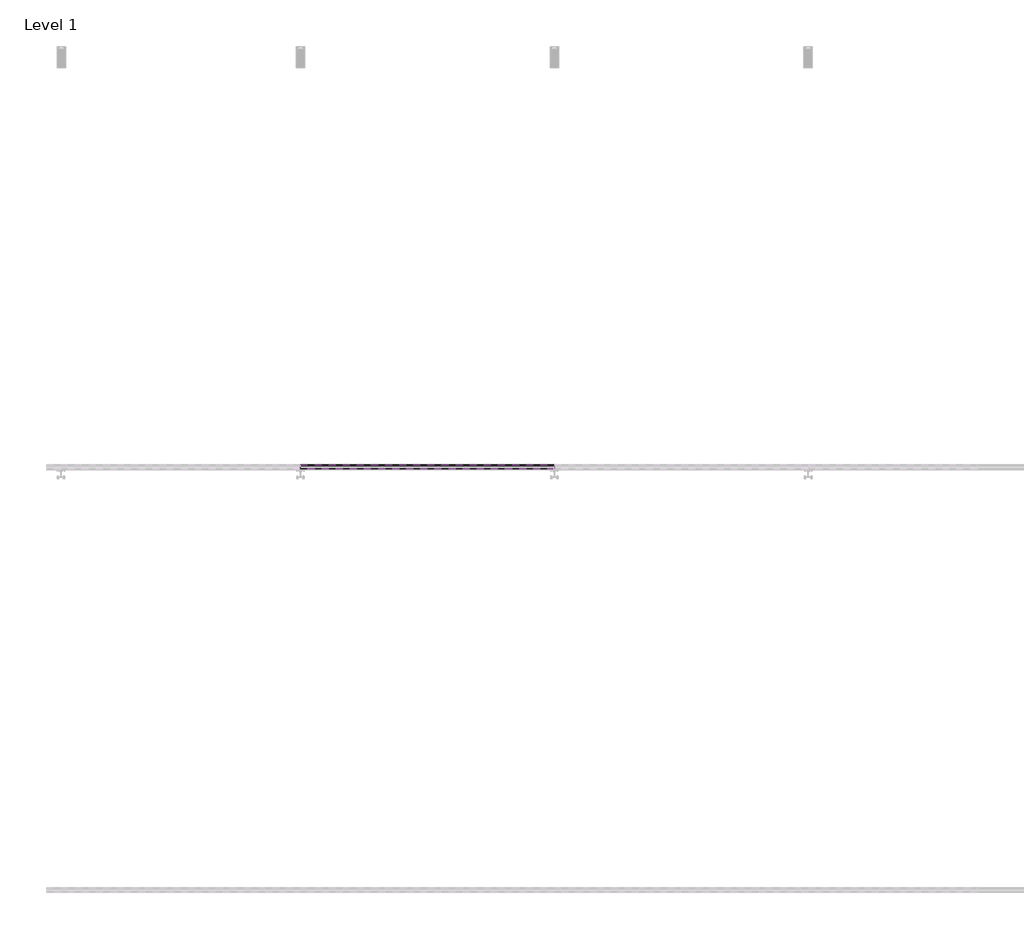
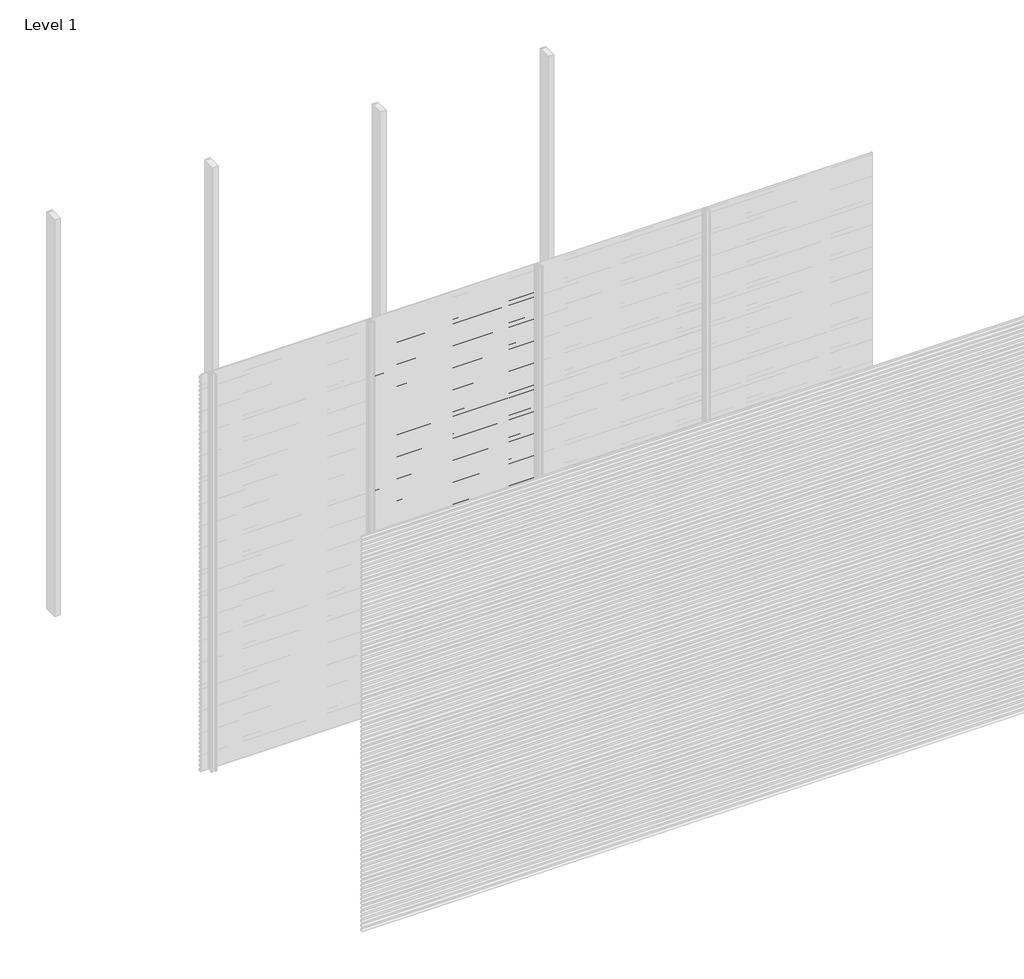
# One storey, part 21 of 77: 72 proxies.
"""IFC4 building model written with IfcOpenShell, lengths in millimetres."""

from ifc_helpers import new_model, si_unit, frame, origin, place, context, project, spatial, polyline, outline, extrude, element, save

model = new_model("IFC4")

# Units and contexts
model_context = context("Model", 3, world=origin())
ifc_project = project(units=[si_unit("LENGTHUNIT", "METRE", prefix="MILLI")], contexts=[model_context])

# Site, building, storey
site = spatial("IfcSite", under=ifc_project)
building = spatial("IfcBuilding", under=site)
storey = spatial("IfcBuildingStorey", under=building, Name="Level 1", Elevation=0.0)

# Proxies
placement = place(None, origin())
element("IfcBuildingElementProxy", 1, Name="Wall Sweeps", at=placement, inside=storey, context=model_context, shape_type="SweptSolid", body=[
    extrude(outline(polyline([(-41978.6, 2806.0359887), (-41998.0, 2817.2366691), (-41998.0, 2830.5), (-41997.0, 2830.5), (-41997.0, 2817.8191057), (-41977.6, 2806.6185105), (-41977.6, 2793.0185105), (-41978.6, 2794.5953129), (-41978.6, 2800.4032062), (-41995.9773817, 2792.3), (-41996.4, 2793.2063078), (-41978.6, 2801.5065841), (-41978.6, 2806.0359887)])), frame((1200.0, 0.0, 0.0), z_axis=(1.0, 0.0, 0.0), x_axis=(0.0, 1.0, 0.0)), (0.0, 0.0, 1.0), 1200.0),
])
element("IfcBuildingElementProxy", 2, Name="Wall Sweeps", at=placement, inside=storey, context=model_context, shape_type="SweptSolid", body=[
    extrude(outline(polyline([(-41978.6, 2772.7359887), (-41998.0, 2783.9366691), (-41998.0, 2797.2), (-41997.0, 2797.2), (-41997.0, 2784.5191057), (-41977.6, 2773.3185105), (-41977.6, 2759.7185105), (-41978.6, 2761.2953129), (-41978.6, 2767.1032062), (-41995.9773817, 2759.0), (-41996.4, 2759.9063078), (-41978.6, 2768.2065841), (-41978.6, 2772.7359887)])), frame((1200.0, 0.0, 0.0), z_axis=(1.0, 0.0, 0.0), x_axis=(0.0, 1.0, 0.0)), (0.0, 0.0, 1.0), 1200.0),
])
element("IfcBuildingElementProxy", 3, Name="Wall Sweeps", at=placement, inside=storey, context=model_context, shape_type="SweptSolid", body=[
    extrude(outline(polyline([(-41978.6, 2739.4359887), (-41998.0, 2750.6366691), (-41998.0, 2763.9), (-41997.0, 2763.9), (-41997.0, 2751.2191057), (-41977.6, 2740.0185105), (-41977.6, 2726.4185105), (-41978.6, 2727.9953129), (-41978.6, 2733.8032062), (-41995.9773817, 2725.7), (-41996.4, 2726.6063078), (-41978.6, 2734.9065841), (-41978.6, 2739.4359887)])), frame((1200.0, 0.0, 0.0), z_axis=(1.0, 0.0, 0.0), x_axis=(0.0, 1.0, 0.0)), (0.0, 0.0, 1.0), 1200.0),
])
element("IfcBuildingElementProxy", 4, Name="Wall Sweeps", at=placement, inside=storey, context=model_context, shape_type="SweptSolid", body=[
    extrude(outline(polyline([(-41978.6, 2706.1359887), (-41998.0, 2717.3366691), (-41998.0, 2730.6), (-41997.0, 2730.6), (-41997.0, 2717.9191057), (-41977.6, 2706.7185105), (-41977.6, 2693.1185105), (-41978.6, 2694.6953129), (-41978.6, 2700.5032062), (-41995.9773817, 2692.4), (-41996.4, 2693.3063078), (-41978.6, 2701.6065841), (-41978.6, 2706.1359887)])), frame((1200.0, 0.0, 0.0), z_axis=(1.0, 0.0, 0.0), x_axis=(0.0, 1.0, 0.0)), (0.0, 0.0, 1.0), 1200.0),
])
element("IfcBuildingElementProxy", 5, Name="Wall Sweeps", at=placement, inside=storey, context=model_context, shape_type="SweptSolid", body=[
    extrude(outline(polyline([(-41978.6, 2672.8359887), (-41998.0, 2684.0366691), (-41998.0, 2697.3), (-41997.0, 2697.3), (-41997.0, 2684.6191057), (-41977.6, 2673.4185105), (-41977.6, 2659.8185105), (-41978.6, 2661.3953129), (-41978.6, 2667.2032062), (-41995.9773817, 2659.1), (-41996.4, 2660.0063078), (-41978.6, 2668.3065841), (-41978.6, 2672.8359887)])), frame((1200.0, 0.0, 0.0), z_axis=(1.0, 0.0, 0.0), x_axis=(0.0, 1.0, 0.0)), (0.0, 0.0, 1.0), 1200.0),
])
element("IfcBuildingElementProxy", 6, Name="Wall Sweeps", at=placement, inside=storey, context=model_context, shape_type="SweptSolid", body=[
    extrude(outline(polyline([(-41978.6, 2639.5359887), (-41998.0, 2650.7366691), (-41998.0, 2664.0), (-41997.0, 2664.0), (-41997.0, 2651.3191057), (-41977.6, 2640.1185105), (-41977.6, 2626.5185105), (-41978.6, 2628.0953129), (-41978.6, 2633.9032062), (-41995.9773817, 2625.8), (-41996.4, 2626.7063078), (-41978.6, 2635.0065841), (-41978.6, 2639.5359887)])), frame((1200.0, 0.0, 0.0), z_axis=(1.0, 0.0, 0.0), x_axis=(0.0, 1.0, 0.0)), (0.0, 0.0, 1.0), 1200.0),
])
element("IfcBuildingElementProxy", 7, Name="Wall Sweeps", at=placement, inside=storey, context=model_context, shape_type="SweptSolid", body=[
    extrude(outline(polyline([(-41978.6, 2606.2359887), (-41998.0, 2617.4366691), (-41998.0, 2630.7), (-41997.0, 2630.7), (-41997.0, 2618.0191057), (-41977.6, 2606.8185105), (-41977.6, 2593.2185105), (-41978.6, 2594.7953129), (-41978.6, 2600.6032062), (-41995.9773817, 2592.5), (-41996.4, 2593.4063078), (-41978.6, 2601.7065841), (-41978.6, 2606.2359887)])), frame((1200.0, 0.0, 0.0), z_axis=(1.0, 0.0, 0.0), x_axis=(0.0, 1.0, 0.0)), (0.0, 0.0, 1.0), 1200.0),
])
element("IfcBuildingElementProxy", 8, Name="Wall Sweeps", at=placement, inside=storey, context=model_context, shape_type="SweptSolid", body=[
    extrude(outline(polyline([(-41978.6, 2572.9359887), (-41998.0, 2584.1366691), (-41998.0, 2597.4), (-41997.0, 2597.4), (-41997.0, 2584.7191057), (-41977.6, 2573.5185105), (-41977.6, 2559.9185105), (-41978.6, 2561.4953129), (-41978.6, 2567.3032062), (-41995.9773817, 2559.2), (-41996.4, 2560.1063078), (-41978.6, 2568.4065841), (-41978.6, 2572.9359887)])), frame((1200.0, 0.0, 0.0), z_axis=(1.0, 0.0, 0.0), x_axis=(0.0, 1.0, 0.0)), (0.0, 0.0, 1.0), 1200.0),
])
element("IfcBuildingElementProxy", 9, Name="Wall Sweeps", at=placement, inside=storey, context=model_context, shape_type="SweptSolid", body=[
    extrude(outline(polyline([(-41978.6, 2539.6359887), (-41998.0, 2550.8366691), (-41998.0, 2564.1), (-41997.0, 2564.1), (-41997.0, 2551.4191057), (-41977.6, 2540.2185105), (-41977.6, 2526.6185105), (-41978.6, 2528.1953129), (-41978.6, 2534.0032062), (-41995.9773817, 2525.9), (-41996.4, 2526.8063078), (-41978.6, 2535.1065841), (-41978.6, 2539.6359887)])), frame((1200.0, 0.0, 0.0), z_axis=(1.0, 0.0, 0.0), x_axis=(0.0, 1.0, 0.0)), (0.0, 0.0, 1.0), 1200.0),
])
element("IfcBuildingElementProxy", 10, Name="Wall Sweeps", at=placement, inside=storey, context=model_context, shape_type="SweptSolid", body=[
    extrude(outline(polyline([(-41978.6, 2506.3359887), (-41998.0, 2517.5366691), (-41998.0, 2530.8), (-41997.0, 2530.8), (-41997.0, 2518.1191057), (-41977.6, 2506.9185105), (-41977.6, 2493.3185105), (-41978.6, 2494.8953129), (-41978.6, 2500.7032062), (-41995.9773817, 2492.6), (-41996.4, 2493.5063078), (-41978.6, 2501.8065841), (-41978.6, 2506.3359887)])), frame((1200.0, 0.0, 0.0), z_axis=(1.0, 0.0, 0.0), x_axis=(0.0, 1.0, 0.0)), (0.0, 0.0, 1.0), 1200.0),
])
element("IfcBuildingElementProxy", 11, Name="Wall Sweeps", at=placement, inside=storey, context=model_context, shape_type="SweptSolid", body=[
    extrude(outline(polyline([(-41978.6, 2473.0359887), (-41998.0, 2484.2366691), (-41998.0, 2497.5), (-41997.0, 2497.5), (-41997.0, 2484.8191057), (-41977.6, 2473.6185105), (-41977.6, 2460.0185105), (-41978.6, 2461.5953129), (-41978.6, 2467.4032062), (-41995.9773817, 2459.3), (-41996.4, 2460.2063078), (-41978.6, 2468.5065841), (-41978.6, 2473.0359887)])), frame((1200.0, 0.0, 0.0), z_axis=(1.0, 0.0, 0.0), x_axis=(0.0, 1.0, 0.0)), (0.0, 0.0, 1.0), 1200.0),
])
element("IfcBuildingElementProxy", 12, Name="Wall Sweeps", at=placement, inside=storey, context=model_context, shape_type="SweptSolid", body=[
    extrude(outline(polyline([(-41978.6, 2439.7359887), (-41998.0, 2450.9366691), (-41998.0, 2464.2), (-41997.0, 2464.2), (-41997.0, 2451.5191057), (-41977.6, 2440.3185105), (-41977.6, 2426.7185105), (-41978.6, 2428.2953129), (-41978.6, 2434.1032062), (-41995.9773817, 2426.0), (-41996.4, 2426.9063078), (-41978.6, 2435.2065841), (-41978.6, 2439.7359887)])), frame((1200.0, 0.0, 0.0), z_axis=(1.0, 0.0, 0.0), x_axis=(0.0, 1.0, 0.0)), (0.0, 0.0, 1.0), 1200.0),
])
element("IfcBuildingElementProxy", 13, Name="Wall Sweeps", at=placement, inside=storey, context=model_context, shape_type="SweptSolid", body=[
    extrude(outline(polyline([(-41978.6, 2406.4359887), (-41998.0, 2417.6366691), (-41998.0, 2430.9), (-41997.0, 2430.9), (-41997.0, 2418.2191057), (-41977.6, 2407.0185105), (-41977.6, 2393.4185105), (-41978.6, 2394.9953129), (-41978.6, 2400.8032062), (-41995.9773817, 2392.7), (-41996.4, 2393.6063078), (-41978.6, 2401.9065841), (-41978.6, 2406.4359887)])), frame((1200.0, 0.0, 0.0), z_axis=(1.0, 0.0, 0.0), x_axis=(0.0, 1.0, 0.0)), (0.0, 0.0, 1.0), 1200.0),
])
element("IfcBuildingElementProxy", 14, Name="Wall Sweeps", at=placement, inside=storey, context=model_context, shape_type="SweptSolid", body=[
    extrude(outline(polyline([(-41978.6, 2373.1359887), (-41998.0, 2384.3366691), (-41998.0, 2397.6), (-41997.0, 2397.6), (-41997.0, 2384.9191057), (-41977.6, 2373.7185105), (-41977.6, 2360.1185105), (-41978.6, 2361.6953129), (-41978.6, 2367.5032062), (-41995.9773817, 2359.4), (-41996.4, 2360.3063078), (-41978.6, 2368.6065841), (-41978.6, 2373.1359887)])), frame((1200.0, 0.0, 0.0), z_axis=(1.0, 0.0, 0.0), x_axis=(0.0, 1.0, 0.0)), (0.0, 0.0, 1.0), 1200.0),
])
element("IfcBuildingElementProxy", 15, Name="Wall Sweeps", at=placement, inside=storey, context=model_context, shape_type="SweptSolid", body=[
    extrude(outline(polyline([(-41978.6, 2339.8359887), (-41998.0, 2351.0366691), (-41998.0, 2364.3), (-41997.0, 2364.3), (-41997.0, 2351.6191057), (-41977.6, 2340.4185105), (-41977.6, 2326.8185105), (-41978.6, 2328.3953129), (-41978.6, 2334.2032062), (-41995.9773817, 2326.1), (-41996.4, 2327.0063078), (-41978.6, 2335.3065841), (-41978.6, 2339.8359887)])), frame((1200.0, 0.0, 0.0), z_axis=(1.0, 0.0, 0.0), x_axis=(0.0, 1.0, 0.0)), (0.0, 0.0, 1.0), 1200.0),
])
element("IfcBuildingElementProxy", 16, Name="Wall Sweeps", at=placement, inside=storey, context=model_context, shape_type="SweptSolid", body=[
    extrude(outline(polyline([(-41978.6, 2306.5359887), (-41998.0, 2317.7366691), (-41998.0, 2331.0), (-41997.0, 2331.0), (-41997.0, 2318.3191057), (-41977.6, 2307.1185105), (-41977.6, 2293.5185105), (-41978.6, 2295.0953129), (-41978.6, 2300.9032062), (-41995.9773817, 2292.8), (-41996.4, 2293.7063078), (-41978.6, 2302.0065841), (-41978.6, 2306.5359887)])), frame((1200.0, 0.0, 0.0), z_axis=(1.0, 0.0, 0.0), x_axis=(0.0, 1.0, 0.0)), (0.0, 0.0, 1.0), 1200.0),
])
element("IfcBuildingElementProxy", 17, Name="Wall Sweeps", at=placement, inside=storey, context=model_context, shape_type="SweptSolid", body=[
    extrude(outline(polyline([(-41978.6, 2273.2359887), (-41998.0, 2284.4366691), (-41998.0, 2297.7), (-41997.0, 2297.7), (-41997.0, 2285.0191057), (-41977.6, 2273.8185105), (-41977.6, 2260.2185105), (-41978.6, 2261.7953129), (-41978.6, 2267.6032062), (-41995.9773817, 2259.5), (-41996.4, 2260.4063078), (-41978.6, 2268.7065841), (-41978.6, 2273.2359887)])), frame((1200.0, 0.0, 0.0), z_axis=(1.0, 0.0, 0.0), x_axis=(0.0, 1.0, 0.0)), (0.0, 0.0, 1.0), 1200.0),
])
element("IfcBuildingElementProxy", 18, Name="Wall Sweeps", at=placement, inside=storey, context=model_context, shape_type="SweptSolid", body=[
    extrude(outline(polyline([(-41978.6, 2239.9359887), (-41998.0, 2251.1366691), (-41998.0, 2264.4), (-41997.0, 2264.4), (-41997.0, 2251.7191057), (-41977.6, 2240.5185105), (-41977.6, 2226.9185105), (-41978.6, 2228.4953129), (-41978.6, 2234.3032062), (-41995.9773817, 2226.2), (-41996.4, 2227.1063078), (-41978.6, 2235.4065841), (-41978.6, 2239.9359887)])), frame((1200.0, 0.0, 0.0), z_axis=(1.0, 0.0, 0.0), x_axis=(0.0, 1.0, 0.0)), (0.0, 0.0, 1.0), 1200.0),
])
element("IfcBuildingElementProxy", 19, Name="Wall Sweeps", at=placement, inside=storey, context=model_context, shape_type="SweptSolid", body=[
    extrude(outline(polyline([(-41978.6, 2206.6359887), (-41998.0, 2217.8366691), (-41998.0, 2231.1), (-41997.0, 2231.1), (-41997.0, 2218.4191057), (-41977.6, 2207.2185105), (-41977.6, 2193.6185105), (-41978.6, 2195.1953129), (-41978.6, 2201.0032062), (-41995.9773817, 2192.9), (-41996.4, 2193.8063078), (-41978.6, 2202.1065841), (-41978.6, 2206.6359887)])), frame((1200.0, 0.0, 0.0), z_axis=(1.0, 0.0, 0.0), x_axis=(0.0, 1.0, 0.0)), (0.0, 0.0, 1.0), 1200.0),
])
element("IfcBuildingElementProxy", 20, Name="Wall Sweeps", at=placement, inside=storey, context=model_context, shape_type="SweptSolid", body=[
    extrude(outline(polyline([(-41978.6, 2173.3359887), (-41998.0, 2184.5366691), (-41998.0, 2197.8), (-41997.0, 2197.8), (-41997.0, 2185.1191057), (-41977.6, 2173.9185105), (-41977.6, 2160.3185105), (-41978.6, 2161.8953129), (-41978.6, 2167.7032062), (-41995.9773817, 2159.6), (-41996.4, 2160.5063078), (-41978.6, 2168.8065841), (-41978.6, 2173.3359887)])), frame((1200.0, 0.0, 0.0), z_axis=(1.0, 0.0, 0.0), x_axis=(0.0, 1.0, 0.0)), (0.0, 0.0, 1.0), 1200.0),
])
element("IfcBuildingElementProxy", 21, Name="Wall Sweeps", at=placement, inside=storey, context=model_context, shape_type="SweptSolid", body=[
    extrude(outline(polyline([(-41978.6, 2140.0359887), (-41998.0, 2151.2366691), (-41998.0, 2164.5), (-41997.0, 2164.5), (-41997.0, 2151.8191057), (-41977.6, 2140.6185105), (-41977.6, 2127.0185105), (-41978.6, 2128.5953129), (-41978.6, 2134.4032062), (-41995.9773817, 2126.3), (-41996.4, 2127.2063078), (-41978.6, 2135.5065841), (-41978.6, 2140.0359887)])), frame((1200.0, 0.0, 0.0), z_axis=(1.0, 0.0, 0.0), x_axis=(0.0, 1.0, 0.0)), (0.0, 0.0, 1.0), 1200.0),
])
element("IfcBuildingElementProxy", 22, Name="Wall Sweeps", at=placement, inside=storey, context=model_context, shape_type="SweptSolid", body=[
    extrude(outline(polyline([(-41978.6, 2106.7359887), (-41998.0, 2117.9366691), (-41998.0, 2131.2), (-41997.0, 2131.2), (-41997.0, 2118.5191057), (-41977.6, 2107.3185105), (-41977.6, 2093.7185105), (-41978.6, 2095.2953129), (-41978.6, 2101.1032062), (-41995.9773817, 2093.0), (-41996.4, 2093.9063078), (-41978.6, 2102.2065841), (-41978.6, 2106.7359887)])), frame((1200.0, 0.0, 0.0), z_axis=(1.0, 0.0, 0.0), x_axis=(0.0, 1.0, 0.0)), (0.0, 0.0, 1.0), 1200.0),
])
element("IfcBuildingElementProxy", 23, Name="Wall Sweeps", at=placement, inside=storey, context=model_context, shape_type="SweptSolid", body=[
    extrude(outline(polyline([(-41978.6, 2073.4359887), (-41998.0, 2084.6366691), (-41998.0, 2097.9), (-41997.0, 2097.9), (-41997.0, 2085.2191057), (-41977.6, 2074.0185105), (-41977.6, 2060.4185105), (-41978.6, 2061.9953129), (-41978.6, 2067.8032062), (-41995.9773817, 2059.7), (-41996.4, 2060.6063078), (-41978.6, 2068.9065841), (-41978.6, 2073.4359887)])), frame((1200.0, 0.0, 0.0), z_axis=(1.0, 0.0, 0.0), x_axis=(0.0, 1.0, 0.0)), (0.0, 0.0, 1.0), 1200.0),
])
element("IfcBuildingElementProxy", 24, Name="Wall Sweeps", at=placement, inside=storey, context=model_context, shape_type="SweptSolid", body=[
    extrude(outline(polyline([(-41978.6, 2040.1359887), (-41998.0, 2051.3366691), (-41998.0, 2064.6), (-41997.0, 2064.6), (-41997.0, 2051.9191057), (-41977.6, 2040.7185105), (-41977.6, 2027.1185105), (-41978.6, 2028.6953129), (-41978.6, 2034.5032062), (-41995.9773817, 2026.4), (-41996.4, 2027.3063078), (-41978.6, 2035.6065841), (-41978.6, 2040.1359887)])), frame((1200.0, 0.0, 0.0), z_axis=(1.0, 0.0, 0.0), x_axis=(0.0, 1.0, 0.0)), (0.0, 0.0, 1.0), 1200.0),
])
element("IfcBuildingElementProxy", 25, Name="Wall Sweeps", at=placement, inside=storey, context=model_context, shape_type="SweptSolid", body=[
    extrude(outline(polyline([(-41978.6, 2006.8359887), (-41998.0, 2018.0366691), (-41998.0, 2031.3), (-41997.0, 2031.3), (-41997.0, 2018.6191057), (-41977.6, 2007.4185105), (-41977.6, 1993.8185105), (-41978.6, 1995.3953129), (-41978.6, 2001.2032062), (-41995.9773817, 1993.1), (-41996.4, 1994.0063078), (-41978.6, 2002.3065841), (-41978.6, 2006.8359887)])), frame((1200.0, 0.0, 0.0), z_axis=(1.0, 0.0, 0.0), x_axis=(0.0, 1.0, 0.0)), (0.0, 0.0, 1.0), 1200.0),
])
element("IfcBuildingElementProxy", 26, Name="Wall Sweeps", at=placement, inside=storey, context=model_context, shape_type="SweptSolid", body=[
    extrude(outline(polyline([(-41978.6, 1973.5359887), (-41998.0, 1984.7366691), (-41998.0, 1998.0), (-41997.0, 1998.0), (-41997.0, 1985.3191057), (-41977.6, 1974.1185105), (-41977.6, 1960.5185105), (-41978.6, 1962.0953129), (-41978.6, 1967.9032062), (-41995.9773817, 1959.8), (-41996.4, 1960.7063078), (-41978.6, 1969.0065841), (-41978.6, 1973.5359887)])), frame((1200.0, 0.0, 0.0), z_axis=(1.0, 0.0, 0.0), x_axis=(0.0, 1.0, 0.0)), (0.0, 0.0, 1.0), 1200.0),
])
element("IfcBuildingElementProxy", 27, Name="Wall Sweeps", at=placement, inside=storey, context=model_context, shape_type="SweptSolid", body=[
    extrude(outline(polyline([(-41978.6, 1940.2359887), (-41998.0, 1951.4366691), (-41998.0, 1964.7), (-41997.0, 1964.7), (-41997.0, 1952.0191057), (-41977.6, 1940.8185105), (-41977.6, 1927.2185105), (-41978.6, 1928.7953129), (-41978.6, 1934.6032062), (-41995.9773817, 1926.5), (-41996.4, 1927.4063078), (-41978.6, 1935.7065841), (-41978.6, 1940.2359887)])), frame((1200.0, 0.0, 0.0), z_axis=(1.0, 0.0, 0.0), x_axis=(0.0, 1.0, 0.0)), (0.0, 0.0, 1.0), 1200.0),
])
element("IfcBuildingElementProxy", 28, Name="Wall Sweeps", at=placement, inside=storey, context=model_context, shape_type="SweptSolid", body=[
    extrude(outline(polyline([(-41978.6, 1906.9359887), (-41998.0, 1918.1366691), (-41998.0, 1931.4), (-41997.0, 1931.4), (-41997.0, 1918.7191057), (-41977.6, 1907.5185105), (-41977.6, 1893.9185105), (-41978.6, 1895.4953129), (-41978.6, 1901.3032062), (-41995.9773817, 1893.2), (-41996.4, 1894.1063078), (-41978.6, 1902.4065841), (-41978.6, 1906.9359887)])), frame((1200.0, 0.0, 0.0), z_axis=(1.0, 0.0, 0.0), x_axis=(0.0, 1.0, 0.0)), (0.0, 0.0, 1.0), 1200.0),
])
element("IfcBuildingElementProxy", 29, Name="Wall Sweeps", at=placement, inside=storey, context=model_context, shape_type="SweptSolid", body=[
    extrude(outline(polyline([(-41978.6, 1873.6359887), (-41998.0, 1884.8366691), (-41998.0, 1898.1), (-41997.0, 1898.1), (-41997.0, 1885.4191057), (-41977.6, 1874.2185105), (-41977.6, 1860.6185105), (-41978.6, 1862.1953129), (-41978.6, 1868.0032062), (-41995.9773817, 1859.9), (-41996.4, 1860.8063078), (-41978.6, 1869.1065841), (-41978.6, 1873.6359887)])), frame((1200.0, 0.0, 0.0), z_axis=(1.0, 0.0, 0.0), x_axis=(0.0, 1.0, 0.0)), (0.0, 0.0, 1.0), 1200.0),
])
element("IfcBuildingElementProxy", 30, Name="Wall Sweeps", at=placement, inside=storey, context=model_context, shape_type="SweptSolid", body=[
    extrude(outline(polyline([(-41978.6, 1840.3359887), (-41998.0, 1851.5366691), (-41998.0, 1864.8), (-41997.0, 1864.8), (-41997.0, 1852.1191057), (-41977.6, 1840.9185105), (-41977.6, 1827.3185105), (-41978.6, 1828.8953129), (-41978.6, 1834.7032062), (-41995.9773817, 1826.6), (-41996.4, 1827.5063078), (-41978.6, 1835.8065841), (-41978.6, 1840.3359887)])), frame((1200.0, 0.0, 0.0), z_axis=(1.0, 0.0, 0.0), x_axis=(0.0, 1.0, 0.0)), (0.0, 0.0, 1.0), 1200.0),
])
element("IfcBuildingElementProxy", 31, Name="Wall Sweeps", at=placement, inside=storey, context=model_context, shape_type="SweptSolid", body=[
    extrude(outline(polyline([(-41978.6, 1807.0359887), (-41998.0, 1818.2366691), (-41998.0, 1831.5), (-41997.0, 1831.5), (-41997.0, 1818.8191057), (-41977.6, 1807.6185105), (-41977.6, 1794.0185105), (-41978.6, 1795.5953129), (-41978.6, 1801.4032062), (-41995.9773817, 1793.3), (-41996.4, 1794.2063078), (-41978.6, 1802.5065841), (-41978.6, 1807.0359887)])), frame((1200.0, 0.0, 0.0), z_axis=(1.0, 0.0, 0.0), x_axis=(0.0, 1.0, 0.0)), (0.0, 0.0, 1.0), 1200.0),
])
element("IfcBuildingElementProxy", 32, Name="Wall Sweeps", at=placement, inside=storey, context=model_context, shape_type="SweptSolid", body=[
    extrude(outline(polyline([(-41978.6, 1773.7359887), (-41998.0, 1784.9366691), (-41998.0, 1798.2), (-41997.0, 1798.2), (-41997.0, 1785.5191057), (-41977.6, 1774.3185105), (-41977.6, 1760.7185105), (-41978.6, 1762.2953129), (-41978.6, 1768.1032062), (-41995.9773817, 1760.0), (-41996.4, 1760.9063078), (-41978.6, 1769.2065841), (-41978.6, 1773.7359887)])), frame((1200.0, 0.0, 0.0), z_axis=(1.0, 0.0, 0.0), x_axis=(0.0, 1.0, 0.0)), (0.0, 0.0, 1.0), 1200.0),
])
element("IfcBuildingElementProxy", 33, Name="Wall Sweeps", at=placement, inside=storey, context=model_context, shape_type="SweptSolid", body=[
    extrude(outline(polyline([(-41978.6, 1740.4359887), (-41998.0, 1751.6366691), (-41998.0, 1764.9), (-41997.0, 1764.9), (-41997.0, 1752.2191057), (-41977.6, 1741.0185105), (-41977.6, 1727.4185105), (-41978.6, 1728.9953129), (-41978.6, 1734.8032062), (-41995.9773817, 1726.7), (-41996.4, 1727.6063078), (-41978.6, 1735.9065841), (-41978.6, 1740.4359887)])), frame((1200.0, 0.0, 0.0), z_axis=(1.0, 0.0, 0.0), x_axis=(0.0, 1.0, 0.0)), (0.0, 0.0, 1.0), 1200.0),
])
element("IfcBuildingElementProxy", 34, Name="Wall Sweeps", at=placement, inside=storey, context=model_context, shape_type="SweptSolid", body=[
    extrude(outline(polyline([(-41978.6, 1707.1359887), (-41998.0, 1718.3366691), (-41998.0, 1731.6), (-41997.0, 1731.6), (-41997.0, 1718.9191057), (-41977.6, 1707.7185105), (-41977.6, 1694.1185105), (-41978.6, 1695.6953129), (-41978.6, 1701.5032062), (-41995.9773817, 1693.4), (-41996.4, 1694.3063078), (-41978.6, 1702.6065841), (-41978.6, 1707.1359887)])), frame((1200.0, 0.0, 0.0), z_axis=(1.0, 0.0, 0.0), x_axis=(0.0, 1.0, 0.0)), (0.0, 0.0, 1.0), 1200.0),
])
element("IfcBuildingElementProxy", 35, Name="Wall Sweeps", at=placement, inside=storey, context=model_context, shape_type="SweptSolid", body=[
    extrude(outline(polyline([(-41978.6, 1673.8359887), (-41998.0, 1685.0366691), (-41998.0, 1698.3), (-41997.0, 1698.3), (-41997.0, 1685.6191057), (-41977.6, 1674.4185105), (-41977.6, 1660.8185105), (-41978.6, 1662.3953129), (-41978.6, 1668.2032062), (-41995.9773817, 1660.1), (-41996.4, 1661.0063078), (-41978.6, 1669.3065841), (-41978.6, 1673.8359887)])), frame((1200.0, 0.0, 0.0), z_axis=(1.0, 0.0, 0.0), x_axis=(0.0, 1.0, 0.0)), (0.0, 0.0, 1.0), 1200.0),
])
element("IfcBuildingElementProxy", 36, Name="Wall Sweeps", at=placement, inside=storey, context=model_context, shape_type="SweptSolid", body=[
    extrude(outline(polyline([(-41978.6, 1640.5359887), (-41998.0, 1651.7366691), (-41998.0, 1665.0), (-41997.0, 1665.0), (-41997.0, 1652.3191057), (-41977.6, 1641.1185105), (-41977.6, 1627.5185105), (-41978.6, 1629.0953129), (-41978.6, 1634.9032062), (-41995.9773817, 1626.8), (-41996.4, 1627.7063078), (-41978.6, 1636.0065841), (-41978.6, 1640.5359887)])), frame((1200.0, 0.0, 0.0), z_axis=(1.0, 0.0, 0.0), x_axis=(0.0, 1.0, 0.0)), (0.0, 0.0, 1.0), 1200.0),
])
element("IfcBuildingElementProxy", 37, Name="Wall Sweeps", at=placement, inside=storey, context=model_context, shape_type="SweptSolid", body=[
    extrude(outline(polyline([(-41978.6, 1607.2359887), (-41998.0, 1618.4366691), (-41998.0, 1631.7), (-41997.0, 1631.7), (-41997.0, 1619.0191057), (-41977.6, 1607.8185105), (-41977.6, 1594.2185105), (-41978.6, 1595.7953129), (-41978.6, 1601.6032062), (-41995.9773817, 1593.5), (-41996.4, 1594.4063078), (-41978.6, 1602.7065841), (-41978.6, 1607.2359887)])), frame((1200.0, 0.0, 0.0), z_axis=(1.0, 0.0, 0.0), x_axis=(0.0, 1.0, 0.0)), (0.0, 0.0, 1.0), 1200.0),
])
element("IfcBuildingElementProxy", 38, Name="Wall Sweeps", at=placement, inside=storey, context=model_context, shape_type="SweptSolid", body=[
    extrude(outline(polyline([(-41978.6, 1573.9359887), (-41998.0, 1585.1366691), (-41998.0, 1598.4), (-41997.0, 1598.4), (-41997.0, 1585.7191057), (-41977.6, 1574.5185105), (-41977.6, 1560.9185105), (-41978.6, 1562.4953129), (-41978.6, 1568.3032062), (-41995.9773817, 1560.2), (-41996.4, 1561.1063078), (-41978.6, 1569.4065841), (-41978.6, 1573.9359887)])), frame((1200.0, 0.0, 0.0), z_axis=(1.0, 0.0, 0.0), x_axis=(0.0, 1.0, 0.0)), (0.0, 0.0, 1.0), 1200.0),
])
element("IfcBuildingElementProxy", 39, Name="Wall Sweeps", at=placement, inside=storey, context=model_context, shape_type="SweptSolid", body=[
    extrude(outline(polyline([(-41978.6, 1540.6359887), (-41998.0, 1551.8366691), (-41998.0, 1565.1), (-41997.0, 1565.1), (-41997.0, 1552.4191057), (-41977.6, 1541.2185105), (-41977.6, 1527.6185105), (-41978.6, 1529.1953129), (-41978.6, 1535.0032062), (-41995.9773817, 1526.9), (-41996.4, 1527.8063078), (-41978.6, 1536.1065841), (-41978.6, 1540.6359887)])), frame((1200.0, 0.0, 0.0), z_axis=(1.0, 0.0, 0.0), x_axis=(0.0, 1.0, 0.0)), (0.0, 0.0, 1.0), 1200.0),
])
element("IfcBuildingElementProxy", 40, Name="Wall Sweeps", at=placement, inside=storey, context=model_context, shape_type="SweptSolid", body=[
    extrude(outline(polyline([(-41978.6, 1507.3359887), (-41998.0, 1518.5366691), (-41998.0, 1531.8), (-41997.0, 1531.8), (-41997.0, 1519.1191057), (-41977.6, 1507.9185105), (-41977.6, 1494.3185105), (-41978.6, 1495.8953129), (-41978.6, 1501.7032062), (-41995.9773817, 1493.6), (-41996.4, 1494.5063078), (-41978.6, 1502.8065841), (-41978.6, 1507.3359887)])), frame((1200.0, 0.0, 0.0), z_axis=(1.0, 0.0, 0.0), x_axis=(0.0, 1.0, 0.0)), (0.0, 0.0, 1.0), 1200.0),
])
element("IfcBuildingElementProxy", 41, Name="Wall Sweeps", at=placement, inside=storey, context=model_context, shape_type="SweptSolid", body=[
    extrude(outline(polyline([(-41978.6, 1474.0359887), (-41998.0, 1485.2366691), (-41998.0, 1498.5), (-41997.0, 1498.5), (-41997.0, 1485.8191057), (-41977.6, 1474.6185105), (-41977.6, 1461.0185105), (-41978.6, 1462.5953129), (-41978.6, 1468.4032062), (-41995.9773817, 1460.3), (-41996.4, 1461.2063078), (-41978.6, 1469.5065841), (-41978.6, 1474.0359887)])), frame((1200.0, 0.0, 0.0), z_axis=(1.0, 0.0, 0.0), x_axis=(0.0, 1.0, 0.0)), (0.0, 0.0, 1.0), 1200.0),
])
element("IfcBuildingElementProxy", 42, Name="Wall Sweeps", at=placement, inside=storey, context=model_context, shape_type="SweptSolid", body=[
    extrude(outline(polyline([(-41978.6, 1440.7359887), (-41998.0, 1451.9366691), (-41998.0, 1465.2), (-41997.0, 1465.2), (-41997.0, 1452.5191057), (-41977.6, 1441.3185105), (-41977.6, 1427.7185105), (-41978.6, 1429.2953129), (-41978.6, 1435.1032062), (-41995.9773817, 1427.0), (-41996.4, 1427.9063078), (-41978.6, 1436.2065841), (-41978.6, 1440.7359887)])), frame((1200.0, 0.0, 0.0), z_axis=(1.0, 0.0, 0.0), x_axis=(0.0, 1.0, 0.0)), (0.0, 0.0, 1.0), 1200.0),
])
element("IfcBuildingElementProxy", 43, Name="Wall Sweeps", at=placement, inside=storey, context=model_context, shape_type="SweptSolid", body=[
    extrude(outline(polyline([(-41978.6, 1407.4359887), (-41998.0, 1418.6366691), (-41998.0, 1431.9), (-41997.0, 1431.9), (-41997.0, 1419.2191057), (-41977.6, 1408.0185105), (-41977.6, 1394.4185105), (-41978.6, 1395.9953129), (-41978.6, 1401.8032062), (-41995.9773817, 1393.7), (-41996.4, 1394.6063078), (-41978.6, 1402.9065841), (-41978.6, 1407.4359887)])), frame((1200.0, 0.0, 0.0), z_axis=(1.0, 0.0, 0.0), x_axis=(0.0, 1.0, 0.0)), (0.0, 0.0, 1.0), 1200.0),
])
element("IfcBuildingElementProxy", 44, Name="Wall Sweeps", at=placement, inside=storey, context=model_context, shape_type="SweptSolid", body=[
    extrude(outline(polyline([(-41978.6, 1374.1359887), (-41998.0, 1385.3366691), (-41998.0, 1398.6), (-41997.0, 1398.6), (-41997.0, 1385.9191057), (-41977.6, 1374.7185105), (-41977.6, 1361.1185105), (-41978.6, 1362.6953129), (-41978.6, 1368.5032062), (-41995.9773817, 1360.4), (-41996.4, 1361.3063078), (-41978.6, 1369.6065841), (-41978.6, 1374.1359887)])), frame((1200.0, 0.0, 0.0), z_axis=(1.0, 0.0, 0.0), x_axis=(0.0, 1.0, 0.0)), (0.0, 0.0, 1.0), 1200.0),
])
element("IfcBuildingElementProxy", 45, Name="Wall Sweeps", at=placement, inside=storey, context=model_context, shape_type="SweptSolid", body=[
    extrude(outline(polyline([(-41978.6, 1340.8359887), (-41998.0, 1352.0366691), (-41998.0, 1365.3), (-41997.0, 1365.3), (-41997.0, 1352.6191057), (-41977.6, 1341.4185105), (-41977.6, 1327.8185105), (-41978.6, 1329.3953129), (-41978.6, 1335.2032062), (-41995.9773817, 1327.1), (-41996.4, 1328.0063078), (-41978.6, 1336.3065841), (-41978.6, 1340.8359887)])), frame((1200.0, 0.0, 0.0), z_axis=(1.0, 0.0, 0.0), x_axis=(0.0, 1.0, 0.0)), (0.0, 0.0, 1.0), 1200.0),
])
element("IfcBuildingElementProxy", 46, Name="Wall Sweeps", at=placement, inside=storey, context=model_context, shape_type="SweptSolid", body=[
    extrude(outline(polyline([(-41978.6, 1307.5359887), (-41998.0, 1318.7366691), (-41998.0, 1332.0), (-41997.0, 1332.0), (-41997.0, 1319.3191057), (-41977.6, 1308.1185105), (-41977.6, 1294.5185105), (-41978.6, 1296.0953129), (-41978.6, 1301.9032062), (-41995.9773817, 1293.8), (-41996.4, 1294.7063078), (-41978.6, 1303.0065841), (-41978.6, 1307.5359887)])), frame((1200.0, 0.0, 0.0), z_axis=(1.0, 0.0, 0.0), x_axis=(0.0, 1.0, 0.0)), (0.0, 0.0, 1.0), 1200.0),
])
element("IfcBuildingElementProxy", 47, Name="Wall Sweeps", at=placement, inside=storey, context=model_context, shape_type="SweptSolid", body=[
    extrude(outline(polyline([(-41978.6, 1274.2359887), (-41998.0, 1285.4366691), (-41998.0, 1298.7), (-41997.0, 1298.7), (-41997.0, 1286.0191057), (-41977.6, 1274.8185105), (-41977.6, 1261.2185105), (-41978.6, 1262.7953129), (-41978.6, 1268.6032062), (-41995.9773817, 1260.5), (-41996.4, 1261.4063078), (-41978.6, 1269.7065841), (-41978.6, 1274.2359887)])), frame((1200.0, 0.0, 0.0), z_axis=(1.0, 0.0, 0.0), x_axis=(0.0, 1.0, 0.0)), (0.0, 0.0, 1.0), 1200.0),
])
element("IfcBuildingElementProxy", 48, Name="Wall Sweeps", at=placement, inside=storey, context=model_context, shape_type="SweptSolid", body=[
    extrude(outline(polyline([(-41978.6, 1240.9359887), (-41998.0, 1252.1366691), (-41998.0, 1265.4), (-41997.0, 1265.4), (-41997.0, 1252.7191057), (-41977.6, 1241.5185105), (-41977.6, 1227.9185105), (-41978.6, 1229.4953129), (-41978.6, 1235.3032062), (-41995.9773817, 1227.2), (-41996.4, 1228.1063078), (-41978.6, 1236.4065841), (-41978.6, 1240.9359887)])), frame((1200.0, 0.0, 0.0), z_axis=(1.0, 0.0, 0.0), x_axis=(0.0, 1.0, 0.0)), (0.0, 0.0, 1.0), 1200.0),
])
element("IfcBuildingElementProxy", 49, Name="Wall Sweeps", at=placement, inside=storey, context=model_context, shape_type="SweptSolid", body=[
    extrude(outline(polyline([(-41978.6, 1207.6359887), (-41998.0, 1218.8366691), (-41998.0, 1232.1), (-41997.0, 1232.1), (-41997.0, 1219.4191057), (-41977.6, 1208.2185105), (-41977.6, 1194.6185105), (-41978.6, 1196.1953129), (-41978.6, 1202.0032062), (-41995.9773817, 1193.9), (-41996.4, 1194.8063078), (-41978.6, 1203.1065841), (-41978.6, 1207.6359887)])), frame((1200.0, 0.0, 0.0), z_axis=(1.0, 0.0, 0.0), x_axis=(0.0, 1.0, 0.0)), (0.0, 0.0, 1.0), 1200.0),
])
element("IfcBuildingElementProxy", 50, Name="Wall Sweeps", at=placement, inside=storey, context=model_context, shape_type="SweptSolid", body=[
    extrude(outline(polyline([(-41978.6, 1174.3359887), (-41998.0, 1185.5366691), (-41998.0, 1198.8), (-41997.0, 1198.8), (-41997.0, 1186.1191057), (-41977.6, 1174.9185105), (-41977.6, 1161.3185105), (-41978.6, 1162.8953129), (-41978.6, 1168.7032062), (-41995.9773817, 1160.6), (-41996.4, 1161.5063078), (-41978.6, 1169.8065841), (-41978.6, 1174.3359887)])), frame((1200.0, 0.0, 0.0), z_axis=(1.0, 0.0, 0.0), x_axis=(0.0, 1.0, 0.0)), (0.0, 0.0, 1.0), 1200.0),
])
element("IfcBuildingElementProxy", 51, Name="Wall Sweeps", at=placement, inside=storey, context=model_context, shape_type="SweptSolid", body=[
    extrude(outline(polyline([(-41978.6, 1141.0359887), (-41998.0, 1152.2366691), (-41998.0, 1165.5), (-41997.0, 1165.5), (-41997.0, 1152.8191057), (-41977.6, 1141.6185105), (-41977.6, 1128.0185105), (-41978.6, 1129.5953129), (-41978.6, 1135.4032062), (-41995.9773817, 1127.3), (-41996.4, 1128.2063078), (-41978.6, 1136.5065841), (-41978.6, 1141.0359887)])), frame((1200.0, 0.0, 0.0), z_axis=(1.0, 0.0, 0.0), x_axis=(0.0, 1.0, 0.0)), (0.0, 0.0, 1.0), 1200.0),
])
element("IfcBuildingElementProxy", 52, Name="Wall Sweeps", at=placement, inside=storey, context=model_context, shape_type="SweptSolid", body=[
    extrude(outline(polyline([(-41978.6, 1107.7359887), (-41998.0, 1118.9366691), (-41998.0, 1132.2), (-41997.0, 1132.2), (-41997.0, 1119.5191057), (-41977.6, 1108.3185105), (-41977.6, 1094.7185105), (-41978.6, 1096.2953129), (-41978.6, 1102.1032062), (-41995.9773817, 1094.0), (-41996.4, 1094.9063078), (-41978.6, 1103.2065841), (-41978.6, 1107.7359887)])), frame((1200.0, 0.0, 0.0), z_axis=(1.0, 0.0, 0.0), x_axis=(0.0, 1.0, 0.0)), (0.0, 0.0, 1.0), 1200.0),
])
element("IfcBuildingElementProxy", 53, Name="Wall Sweeps", at=placement, inside=storey, context=model_context, shape_type="SweptSolid", body=[
    extrude(outline(polyline([(-41978.6, 1074.4359887), (-41998.0, 1085.6366691), (-41998.0, 1098.9), (-41997.0, 1098.9), (-41997.0, 1086.2191057), (-41977.6, 1075.0185105), (-41977.6, 1061.4185105), (-41978.6, 1062.9953129), (-41978.6, 1068.8032062), (-41995.9773817, 1060.7), (-41996.4, 1061.6063078), (-41978.6, 1069.9065841), (-41978.6, 1074.4359887)])), frame((1200.0, 0.0, 0.0), z_axis=(1.0, 0.0, 0.0), x_axis=(0.0, 1.0, 0.0)), (0.0, 0.0, 1.0), 1200.0),
])
element("IfcBuildingElementProxy", 54, Name="Wall Sweeps", at=placement, inside=storey, context=model_context, shape_type="SweptSolid", body=[
    extrude(outline(polyline([(-41978.6, 1041.1359887), (-41998.0, 1052.3366691), (-41998.0, 1065.6), (-41997.0, 1065.6), (-41997.0, 1052.9191057), (-41977.6, 1041.7185105), (-41977.6, 1028.1185105), (-41978.6, 1029.6953129), (-41978.6, 1035.5032062), (-41995.9773817, 1027.4), (-41996.4, 1028.3063078), (-41978.6, 1036.6065841), (-41978.6, 1041.1359887)])), frame((1200.0, 0.0, 0.0), z_axis=(1.0, 0.0, 0.0), x_axis=(0.0, 1.0, 0.0)), (0.0, 0.0, 1.0), 1200.0),
])
element("IfcBuildingElementProxy", 55, Name="Wall Sweeps", at=placement, inside=storey, context=model_context, shape_type="SweptSolid", body=[
    extrude(outline(polyline([(-41978.6, 1007.8359887), (-41998.0, 1019.0366691), (-41998.0, 1032.3), (-41997.0, 1032.3), (-41997.0, 1019.6191057), (-41977.6, 1008.4185105), (-41977.6, 994.8185105), (-41978.6, 996.3953129), (-41978.6, 1002.2032062), (-41995.9773817, 994.1), (-41996.4, 995.0063078), (-41978.6, 1003.3065841), (-41978.6, 1007.8359887)])), frame((1200.0, 0.0, 0.0), z_axis=(1.0, 0.0, 0.0), x_axis=(0.0, 1.0, 0.0)), (0.0, 0.0, 1.0), 1200.0),
])
element("IfcBuildingElementProxy", 56, Name="Wall Sweeps", at=placement, inside=storey, context=model_context, shape_type="SweptSolid", body=[
    extrude(outline(polyline([(-41978.6, 974.5359887), (-41998.0, 985.7366691), (-41998.0, 999.0), (-41997.0, 999.0), (-41997.0, 986.3191057), (-41977.6, 975.1185105), (-41977.6, 961.5185105), (-41978.6, 963.0953129), (-41978.6, 968.9032062), (-41995.9773817, 960.8), (-41996.4, 961.7063078), (-41978.6, 970.0065841), (-41978.6, 974.5359887)])), frame((1200.0, 0.0, 0.0), z_axis=(1.0, 0.0, 0.0), x_axis=(0.0, 1.0, 0.0)), (0.0, 0.0, 1.0), 1200.0),
])
element("IfcBuildingElementProxy", 57, Name="Wall Sweeps", at=placement, inside=storey, context=model_context, shape_type="SweptSolid", body=[
    extrude(outline(polyline([(-41978.6, 941.2359887), (-41998.0, 952.4366691), (-41998.0, 965.7), (-41997.0, 965.7), (-41997.0, 953.0191057), (-41977.6, 941.8185105), (-41977.6, 928.2185105), (-41978.6, 929.7953129), (-41978.6, 935.6032062), (-41995.9773817, 927.5), (-41996.4, 928.4063078), (-41978.6, 936.7065841), (-41978.6, 941.2359887)])), frame((1200.0, 0.0, 0.0), z_axis=(1.0, 0.0, 0.0), x_axis=(0.0, 1.0, 0.0)), (0.0, 0.0, 1.0), 1200.0),
])
element("IfcBuildingElementProxy", 58, Name="Wall Sweeps", at=placement, inside=storey, context=model_context, shape_type="SweptSolid", body=[
    extrude(outline(polyline([(-41978.6, 907.9359887), (-41998.0, 919.1366691), (-41998.0, 932.4), (-41997.0, 932.4), (-41997.0, 919.7191057), (-41977.6, 908.5185105), (-41977.6, 894.9185105), (-41978.6, 896.4953129), (-41978.6, 902.3032062), (-41995.9773817, 894.2), (-41996.4, 895.1063078), (-41978.6, 903.4065841), (-41978.6, 907.9359887)])), frame((1200.0, 0.0, 0.0), z_axis=(1.0, 0.0, 0.0), x_axis=(0.0, 1.0, 0.0)), (0.0, 0.0, 1.0), 1200.0),
])
element("IfcBuildingElementProxy", 59, Name="Wall Sweeps", at=placement, inside=storey, context=model_context, shape_type="SweptSolid", body=[
    extrude(outline(polyline([(-41978.6, 874.6359887), (-41998.0, 885.8366691), (-41998.0, 899.1), (-41997.0, 899.1), (-41997.0, 886.4191057), (-41977.6, 875.2185105), (-41977.6, 861.6185105), (-41978.6, 863.1953129), (-41978.6, 869.0032062), (-41995.9773817, 860.9), (-41996.4, 861.8063078), (-41978.6, 870.1065841), (-41978.6, 874.6359887)])), frame((1200.0, 0.0, 0.0), z_axis=(1.0, 0.0, 0.0), x_axis=(0.0, 1.0, 0.0)), (0.0, 0.0, 1.0), 1200.0),
])
element("IfcBuildingElementProxy", 60, Name="Wall Sweeps", at=placement, inside=storey, context=model_context, shape_type="SweptSolid", body=[
    extrude(outline(polyline([(-41978.6, 841.3359887), (-41998.0, 852.5366691), (-41998.0, 865.8), (-41997.0, 865.8), (-41997.0, 853.1191057), (-41977.6, 841.9185105), (-41977.6, 828.3185105), (-41978.6, 829.8953129), (-41978.6, 835.7032062), (-41995.9773817, 827.6), (-41996.4, 828.5063078), (-41978.6, 836.8065841), (-41978.6, 841.3359887)])), frame((1200.0, 0.0, 0.0), z_axis=(1.0, 0.0, 0.0), x_axis=(0.0, 1.0, 0.0)), (0.0, 0.0, 1.0), 1200.0),
])
element("IfcBuildingElementProxy", 61, Name="Wall Sweeps", at=placement, inside=storey, context=model_context, shape_type="SweptSolid", body=[
    extrude(outline(polyline([(-41978.6, 808.0359887), (-41998.0, 819.2366691), (-41998.0, 832.5), (-41997.0, 832.5), (-41997.0, 819.8191057), (-41977.6, 808.6185105), (-41977.6, 795.0185105), (-41978.6, 796.5953129), (-41978.6, 802.4032062), (-41995.9773817, 794.3), (-41996.4, 795.2063078), (-41978.6, 803.5065841), (-41978.6, 808.0359887)])), frame((1200.0, 0.0, 0.0), z_axis=(1.0, 0.0, 0.0), x_axis=(0.0, 1.0, 0.0)), (0.0, 0.0, 1.0), 1200.0),
])
element("IfcBuildingElementProxy", 62, Name="Wall Sweeps", at=placement, inside=storey, context=model_context, shape_type="SweptSolid", body=[
    extrude(outline(polyline([(-41978.6, 774.7359887), (-41998.0, 785.9366691), (-41998.0, 799.2), (-41997.0, 799.2), (-41997.0, 786.5191057), (-41977.6, 775.3185105), (-41977.6, 761.7185105), (-41978.6, 763.2953129), (-41978.6, 769.1032062), (-41995.9773817, 761.0), (-41996.4, 761.9063078), (-41978.6, 770.2065841), (-41978.6, 774.7359887)])), frame((1200.0, 0.0, 0.0), z_axis=(1.0, 0.0, 0.0), x_axis=(0.0, 1.0, 0.0)), (0.0, 0.0, 1.0), 1200.0),
])
element("IfcBuildingElementProxy", 63, Name="Wall Sweeps", at=placement, inside=storey, context=model_context, shape_type="SweptSolid", body=[
    extrude(outline(polyline([(-41978.6, 741.4359887), (-41998.0, 752.6366691), (-41998.0, 765.9), (-41997.0, 765.9), (-41997.0, 753.2191057), (-41977.6, 742.0185105), (-41977.6, 728.4185105), (-41978.6, 729.9953129), (-41978.6, 735.8032062), (-41995.9773817, 727.7), (-41996.4, 728.6063078), (-41978.6, 736.9065841), (-41978.6, 741.4359887)])), frame((1200.0, 0.0, 0.0), z_axis=(1.0, 0.0, 0.0), x_axis=(0.0, 1.0, 0.0)), (0.0, 0.0, 1.0), 1200.0),
])
element("IfcBuildingElementProxy", 64, Name="Wall Sweeps", at=placement, inside=storey, context=model_context, shape_type="SweptSolid", body=[
    extrude(outline(polyline([(-41978.6, 708.1359887), (-41998.0, 719.3366691), (-41998.0, 732.6), (-41997.0, 732.6), (-41997.0, 719.9191057), (-41977.6, 708.7185105), (-41977.6, 695.1185105), (-41978.6, 696.6953129), (-41978.6, 702.5032062), (-41995.9773817, 694.4), (-41996.4, 695.3063078), (-41978.6, 703.6065841), (-41978.6, 708.1359887)])), frame((1200.0, 0.0, 0.0), z_axis=(1.0, 0.0, 0.0), x_axis=(0.0, 1.0, 0.0)), (0.0, 0.0, 1.0), 1200.0),
])
element("IfcBuildingElementProxy", 65, Name="Wall Sweeps", at=placement, inside=storey, context=model_context, shape_type="SweptSolid", body=[
    extrude(outline(polyline([(-41978.6, 674.8359887), (-41998.0, 686.0366691), (-41998.0, 699.3), (-41997.0, 699.3), (-41997.0, 686.6191057), (-41977.6, 675.4185105), (-41977.6, 661.8185105), (-41978.6, 663.3953129), (-41978.6, 669.2032062), (-41995.9773817, 661.1), (-41996.4, 662.0063078), (-41978.6, 670.3065841), (-41978.6, 674.8359887)])), frame((1200.0, 0.0, 0.0), z_axis=(1.0, 0.0, 0.0), x_axis=(0.0, 1.0, 0.0)), (0.0, 0.0, 1.0), 1200.0),
])
element("IfcBuildingElementProxy", 66, Name="Wall Sweeps", at=placement, inside=storey, context=model_context, shape_type="SweptSolid", body=[
    extrude(outline(polyline([(-41978.6, 641.5359887), (-41998.0, 652.7366691), (-41998.0, 666.0), (-41997.0, 666.0), (-41997.0, 653.3191057), (-41977.6, 642.1185105), (-41977.6, 628.5185105), (-41978.6, 630.0953129), (-41978.6, 635.9032062), (-41995.9773817, 627.8), (-41996.4, 628.7063078), (-41978.6, 637.0065841), (-41978.6, 641.5359887)])), frame((1200.0, 0.0, 0.0), z_axis=(1.0, 0.0, 0.0), x_axis=(0.0, 1.0, 0.0)), (0.0, 0.0, 1.0), 1200.0),
])
element("IfcBuildingElementProxy", 67, Name="Wall Sweeps", at=placement, inside=storey, context=model_context, shape_type="SweptSolid", body=[
    extrude(outline(polyline([(-41978.6, 608.2359887), (-41998.0, 619.4366691), (-41998.0, 632.7), (-41997.0, 632.7), (-41997.0, 620.0191057), (-41977.6, 608.8185105), (-41977.6, 595.2185105), (-41978.6, 596.7953129), (-41978.6, 602.6032062), (-41995.9773817, 594.5), (-41996.4, 595.4063078), (-41978.6, 603.7065841), (-41978.6, 608.2359887)])), frame((1200.0, 0.0, 0.0), z_axis=(1.0, 0.0, 0.0), x_axis=(0.0, 1.0, 0.0)), (0.0, 0.0, 1.0), 1200.0),
])
element("IfcBuildingElementProxy", 68, Name="Wall Sweeps", at=placement, inside=storey, context=model_context, shape_type="SweptSolid", body=[
    extrude(outline(polyline([(-41978.6, 574.9359887), (-41998.0, 586.1366691), (-41998.0, 599.4), (-41997.0, 599.4), (-41997.0, 586.7191057), (-41977.6, 575.5185105), (-41977.6, 561.9185105), (-41978.6, 563.4953129), (-41978.6, 569.3032062), (-41995.9773817, 561.2), (-41996.4, 562.1063078), (-41978.6, 570.4065841), (-41978.6, 574.9359887)])), frame((1200.0, 0.0, 0.0), z_axis=(1.0, 0.0, 0.0), x_axis=(0.0, 1.0, 0.0)), (0.0, 0.0, 1.0), 1200.0),
])
element("IfcBuildingElementProxy", 69, Name="Wall Sweeps", at=placement, inside=storey, context=model_context, shape_type="SweptSolid", body=[
    extrude(outline(polyline([(-41978.6, 541.6359887), (-41998.0, 552.8366691), (-41998.0, 566.1), (-41997.0, 566.1), (-41997.0, 553.4191057), (-41977.6, 542.2185105), (-41977.6, 528.6185105), (-41978.6, 530.1953129), (-41978.6, 536.0032062), (-41995.9773817, 527.9), (-41996.4, 528.8063078), (-41978.6, 537.1065841), (-41978.6, 541.6359887)])), frame((1200.0, 0.0, 0.0), z_axis=(1.0, 0.0, 0.0), x_axis=(0.0, 1.0, 0.0)), (0.0, 0.0, 1.0), 1200.0),
])
element("IfcBuildingElementProxy", 70, Name="Wall Sweeps", at=placement, inside=storey, context=model_context, shape_type="SweptSolid", body=[
    extrude(outline(polyline([(-41978.6, 508.3359887), (-41998.0, 519.5366691), (-41998.0, 532.8), (-41997.0, 532.8), (-41997.0, 520.1191057), (-41977.6, 508.9185105), (-41977.6, 495.3185105), (-41978.6, 496.8953129), (-41978.6, 502.7032062), (-41995.9773817, 494.6), (-41996.4, 495.5063078), (-41978.6, 503.8065841), (-41978.6, 508.3359887)])), frame((1200.0, 0.0, 0.0), z_axis=(1.0, 0.0, 0.0), x_axis=(0.0, 1.0, 0.0)), (0.0, 0.0, 1.0), 1200.0),
])
element("IfcBuildingElementProxy", 71, Name="Wall Sweeps", at=placement, inside=storey, context=model_context, shape_type="SweptSolid", body=[
    extrude(outline(polyline([(-41978.6, 475.0359887), (-41998.0, 486.2366691), (-41998.0, 499.5), (-41997.0, 499.5), (-41997.0, 486.8191057), (-41977.6, 475.6185105), (-41977.6, 462.0185105), (-41978.6, 463.5953129), (-41978.6, 469.4032062), (-41995.9773817, 461.3), (-41996.4, 462.2063078), (-41978.6, 470.5065841), (-41978.6, 475.0359887)])), frame((1200.0, 0.0, 0.0), z_axis=(1.0, 0.0, 0.0), x_axis=(0.0, 1.0, 0.0)), (0.0, 0.0, 1.0), 1200.0),
])
element("IfcBuildingElementProxy", 72, Name="Wall Sweeps", at=placement, inside=storey, context=model_context, shape_type="SweptSolid", body=[
    extrude(outline(polyline([(-41978.6, 441.7359887), (-41998.0, 452.9366691), (-41998.0, 466.2), (-41997.0, 466.2), (-41997.0, 453.5191057), (-41977.6, 442.3185105), (-41977.6, 428.7185105), (-41978.6, 430.2953129), (-41978.6, 436.1032062), (-41995.9773817, 428.0), (-41996.4, 428.9063078), (-41978.6, 437.2065841), (-41978.6, 441.7359887)])), frame((1200.0, 0.0, 0.0), z_axis=(1.0, 0.0, 0.0), x_axis=(0.0, 1.0, 0.0)), (0.0, 0.0, 1.0), 1200.0),
])

save(model, "model.ifc")
